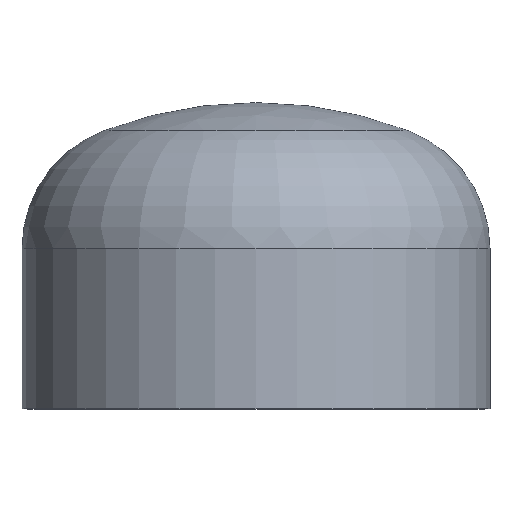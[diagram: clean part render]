
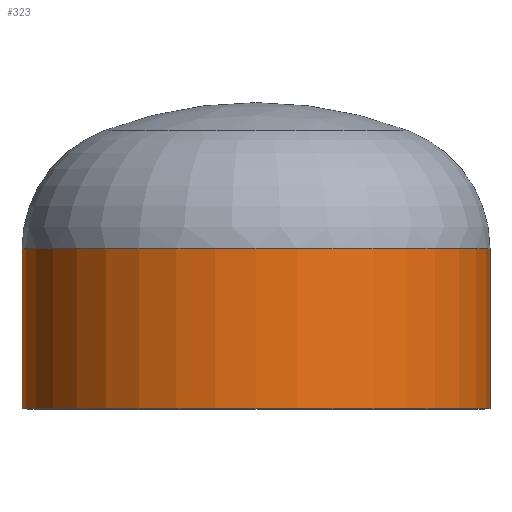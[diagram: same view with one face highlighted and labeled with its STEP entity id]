
A CAD part, top view. The second image highlights one B-rep face of the part: STEP entity #323.
In plain terms, the highlighted cylindrical face has radius 109.55 mm (diameter 219.1 mm), a partial arc.
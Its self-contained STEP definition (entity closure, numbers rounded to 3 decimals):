
#2 = ORIENTED_EDGE ( 'NONE', *, *, #71, .F. ) ;
#8 = ORIENTED_EDGE ( 'NONE', *, *, #383, .T. ) ;
#21 = AXIS2_PLACEMENT_3D ( 'NONE', #72, #102, #82 ) ;
#50 = AXIS2_PLACEMENT_3D ( 'NONE', #194, #207, #209 ) ;
#54 = VERTEX_POINT ( 'NONE', #293 ) ;
#71 = EDGE_CURVE ( 'NONE', #341, #85, #313, .T. ) ;
#72 = CARTESIAN_POINT ( 'NONE',  ( 0., 0., 0. ) ) ;
#76 = EDGE_CURVE ( 'NONE', #335, #54, #155, .T. ) ;
#82 = DIRECTION ( 'NONE',  ( 1., 0., 0. ) ) ;
#85 = VERTEX_POINT ( 'NONE', #193 ) ;
#88 = EDGE_CURVE ( 'NONE', #85, #54, #366, .T. ) ;
#99 = FACE_OUTER_BOUND ( 'NONE', #126, .T. ) ;
#102 = DIRECTION ( 'NONE',  ( 0., -1., 0. ) ) ;
#105 = CARTESIAN_POINT ( 'NONE',  ( 109.55, 75., 0. ) ) ;
#126 = EDGE_LOOP ( 'NONE', ( #8, #351, #381, #2 ) ) ;
#135 = DIRECTION ( 'NONE',  ( 0., -1., 0. ) ) ;
#149 = VECTOR ( 'NONE', #281, 1000. ) ;
#155 = LINE ( 'NONE', #262, #375 ) ;
#157 = CIRCLE ( 'NONE', #227, 109.55 ) ;
#192 = CARTESIAN_POINT ( 'NONE',  ( -109.55, 75., 0. ) ) ;
#193 = CARTESIAN_POINT ( 'NONE',  ( 109.55, 0., 0. ) ) ;
#194 = CARTESIAN_POINT ( 'NONE',  ( 0., 0., 0. ) ) ;
#207 = DIRECTION ( 'NONE',  ( 0., -1., 0. ) ) ;
#209 = DIRECTION ( 'NONE',  ( 1., 0., 0. ) ) ;
#227 = AXIS2_PLACEMENT_3D ( 'NONE', #319, #135, #344 ) ;
#248 = CARTESIAN_POINT ( 'NONE',  ( 109.55, 0., 0. ) ) ;
#262 = CARTESIAN_POINT ( 'NONE',  ( -109.55, 0., 0. ) ) ;
#281 = DIRECTION ( 'NONE',  ( 0., -1., 0. ) ) ;
#293 = CARTESIAN_POINT ( 'NONE',  ( -109.55, 0., 0. ) ) ;
#313 = LINE ( 'NONE', #248, #149 ) ;
#319 = CARTESIAN_POINT ( 'NONE',  ( 0., 75., 0. ) ) ;
#323 = ADVANCED_FACE ( 'NONE', ( #99 ), #386, .T. ) ;
#335 = VERTEX_POINT ( 'NONE', #192 ) ;
#341 = VERTEX_POINT ( 'NONE', #105 ) ;
#344 = DIRECTION ( 'NONE',  ( 1., 0., 0. ) ) ;
#351 = ORIENTED_EDGE ( 'NONE', *, *, #76, .T. ) ;
#366 = CIRCLE ( 'NONE', #50, 109.55 ) ;
#375 = VECTOR ( 'NONE', #396, 1000. ) ;
#381 = ORIENTED_EDGE ( 'NONE', *, *, #88, .F. ) ;
#383 = EDGE_CURVE ( 'NONE', #341, #335, #157, .T. ) ;
#386 = CYLINDRICAL_SURFACE ( 'NONE', #21, 109.55 ) ;
#396 = DIRECTION ( 'NONE',  ( 0., -1., 0. ) ) ;
